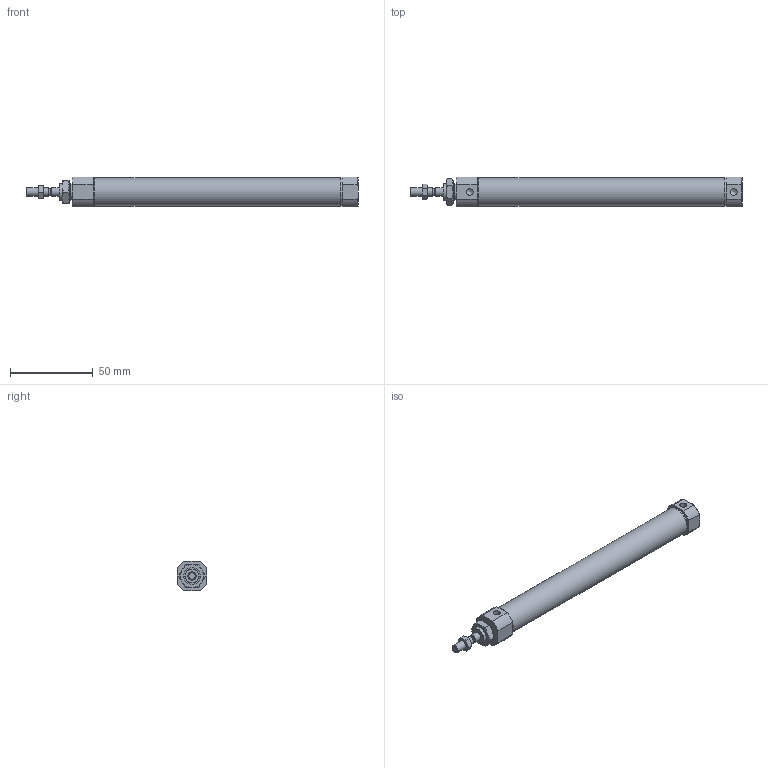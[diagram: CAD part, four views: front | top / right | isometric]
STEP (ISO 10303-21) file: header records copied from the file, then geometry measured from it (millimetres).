
FILE_DESCRIPTION((''),'2;1');
FILE_NAME('I:\3D電子目錄\氣缸\SBA\SBA\SBA16\SBA16x125.stp','2007-10-04T11:59:45',('66-2f-008'),(''),'Autodesk Inventor 11','Autodesk Inventor 11','');
FILE_SCHEMA(('AUTOMOTIVE_DESIGN { 1 0 10303 214 1 1 1 1 }'));
Length unit declared in the file: millimetre
Products named in the file (1): SBA16
Bounding box: 200 x 18 x 18 mm (x, y, z)
Volume: 42501.1 mm3; surface area: 11296.1 mm2
Topology: 1 solids, 1 shells, 88 faces, 192 edges, 117 vertices
Faces by surface type: plane 35, cone 30, cylinder 18, bspline 5
Full cylindrical faces by diameter (mm): 4 x1, 5 x3, 10 x3, 16.54 x2, 17.2 x1
Entity records: 2363 total; most frequent: CARTESIAN_POINT 637, DIRECTION 352, ORIENTED_EDGE 342, EDGE_CURVE 171, AXIS2_PLACEMENT_3D 153, EDGE_LOOP 116, VERTEX_POINT 113, FACE_OUTER_BOUND 88
